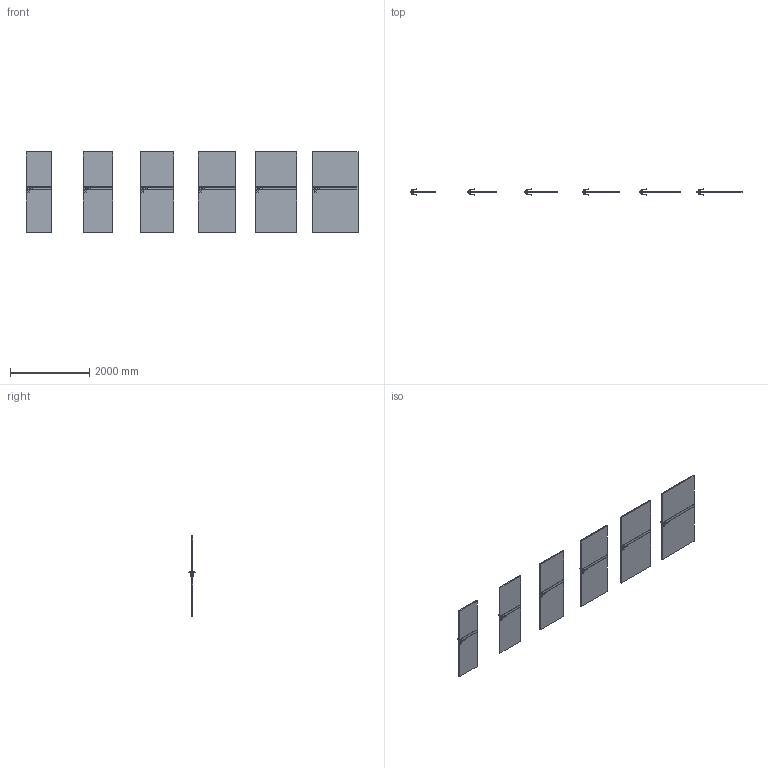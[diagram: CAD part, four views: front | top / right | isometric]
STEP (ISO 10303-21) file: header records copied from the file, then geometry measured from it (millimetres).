
FILE_DESCRIPTION(/* description */ (''),/* implementation_level */ '2;1');
FILE_NAME(/* name */ '049726_A_2-Skrzydło DESIRE model 4_ polska norma _PN__ odwrotna przylga..stp',/* time_stamp */ '2024-02-26T10:06:13+01:00',/* author */ (''),/* organization */ (''),/* preprocessor_version */ 'ST-DEVELOPER v16',/* originating_system */ 'SIEMENS PLM Software NX 11.0',/* authorisation */ '');
FILE_SCHEMA (('AUTOMOTIVE_DESIGN { 1 0 10303 214 3 1 1 1 }'));
Length unit declared in the file: millimetre
Products named in the file (1): bkni2E646CB2gc14
Bounding box: 8389 x 153.27 x 2027 mm (x, y, z)
Volume: 421986000.3 mm3; surface area: 23694986.4 mm2
Topology: 54 solids, 54 shells, 1308 faces, 3072 edges, 1752 vertices
Faces by surface type: plane 684, cylinder 264, bspline 192, sphere 168
Entity records: 42641 total; most frequent: CARTESIAN_POINT 14389, ORIENTED_EDGE 5808, DIRECTION 5498, EDGE_CURVE 2904, AXIS2_PLACEMENT_3D 1837, LINE 1824, VECTOR 1824, VERTEX_POINT 1752
